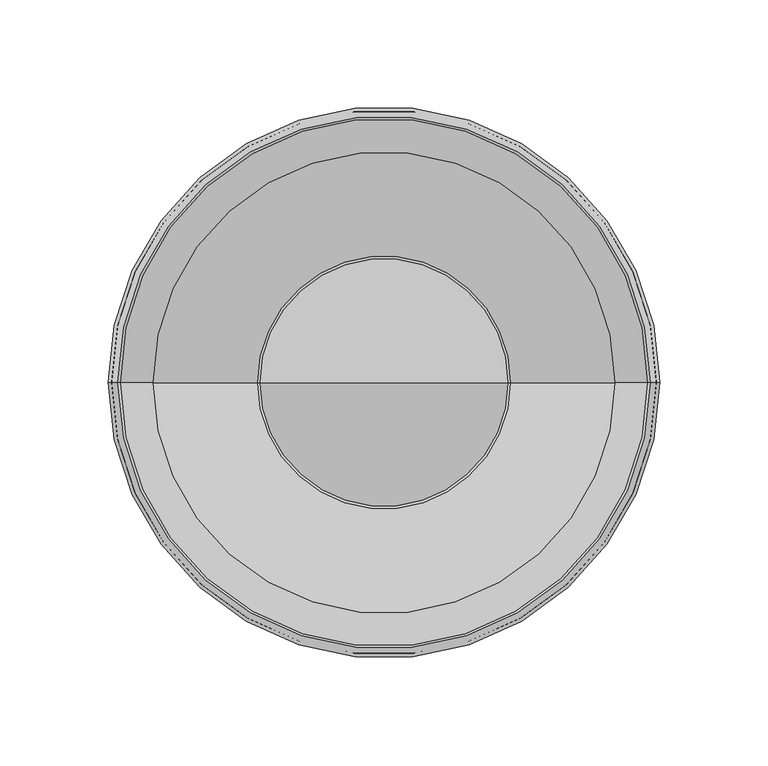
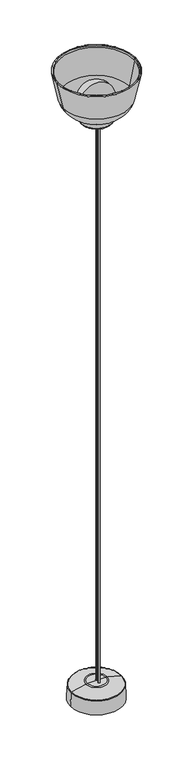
"""IFC4 building model written with IfcOpenShell, lengths in millimetres: light fixture geometry, RBW-Dram-Pendant : DR-S-PC."""

from ifc_helpers import new_model, si_unit, point, frame, frame_2d, origin, place, context, project, spatial, polyline, circle_curve, ellipse_curve, trimmed, segment, composite_curve, outline, extrude, source, transform, mapped, element, save
from ifc_brep_helpers import plane_surface, cylinder_surface, revolved_surface, advanced_brep


def light_fixture_67fafb94(model_context):
    return source(origin(), model_context, "Body", "SolidModel", [
        advanced_brep(
        [(-45.0, 3.5438286, 1993.4185711), (45.0, 3.5438286, 1993.4185711), (0.0, 3.5438286, 1993.4185711), (-45.0, 3.5438286, 2011.9185711), (45.0, 3.5438286, 2011.9185711), (0.0, 3.5438286, 2011.9185711)],
        [
            (0, 1, circle_curve(frame((0.0, 3.5438286, 1993.4185711), z_axis=(0.0, 0.0, -1.0), x_axis=(1.0, 0.0, 0.0)), 45.0)),
            (1, 2),
            (2, 0),
            (1, 0, circle_curve(frame((0.0, 3.5438286, 1993.4185711), z_axis=(0.0, 0.0, -1.0), x_axis=(1.0, 0.0, 0.0)), 45.0)),
            (3, 4, circle_curve(frame((0.0, 3.5438286, 2011.9185711), z_axis=(0.0, 0.0, -1.0), x_axis=(1.0, 0.0, 0.0)), 45.0)),
            (4, 1),
            (0, 3),
            (4, 3, circle_curve(frame((0.0, 3.5438286, 2011.9185711), z_axis=(0.0, 0.0, -1.0), x_axis=(1.0, 0.0, 0.0)), 45.0)),
            (5, 4),
            (3, 5),
        ],
        [
            plane_surface(frame((0.0, 3.5438286, 1993.4185711), z_axis=(0.0, 0.0, -1.0), x_axis=(1.0, 0.0, 0.0))),
            cylinder_surface(frame((0.0, 3.5438286, 2032.0), z_axis=(0.0, 0.0, 1.0), x_axis=(1.0, 0.0, 0.0)), 45.0),
            plane_surface(frame((0.0, 3.5438286, 2011.9185711), z_axis=(0.0, 0.0, 1.0), x_axis=(1.0, 0.0, 0.0))),
        ],
        [
            (0, [[1, 2, 3]]),
            (0, [[4, -3, -2]]),
            (1, [[5, 6, -1, 7]]),
            (1, [[8, -7, -4, -6]]),
            (2, [[9, -5, 10]]),
            (2, [[-10, -8, -9]]),
        ],
    ),
        advanced_brep(
        [(-45.0, 3.5438286, 2011.9185711), (45.0, 3.5438286, 2011.9185711), (0.0, 3.5438286, 2011.9185711), (0.0, 3.5438286, 2105.9297358)],
        [
            (0, 1, circle_curve(frame((0.0, 3.5438286, 2011.9185711), z_axis=(0.0, 0.0, -1.0), x_axis=(1.0, 0.0, 0.0)), 45.0)),
            (1, 2),
            (2, 0),
            (1, 0, circle_curve(frame((0.0, 3.5438286, 2011.9185711), z_axis=(0.0, 0.0, -1.0), x_axis=(1.0, 0.0, 0.0)), 45.0)),
            (3, 1, circle_curve(frame((-1.2656737, 3.5438286, 2047.5483203), z_axis=(0.0, 1.0, 0.0), x_axis=(1.0, 0.0, 0.0)), 58.3951333)),
            (0, 3, circle_curve(frame((1.2656737, 3.5438286, 2047.5483203), z_axis=(0.0, 1.0, 0.0), x_axis=(-1.0, 0.0, 0.0)), 58.3951333)),
        ],
        [
            plane_surface(frame((0.0, 3.5438286, 2011.9185711), z_axis=(0.0, 0.0, -1.0), x_axis=(1.0, 0.0, 0.0))),
            revolved_surface(trimmed(ellipse_curve(frame((-1.2656737, 3.5438286, 2047.5483203), z_axis=(0.0, -1.0, 0.0), x_axis=(1.0, 0.0, 0.0)), 58.3951333, 58.3951333), [point((45.0, 3.5438286, 2011.9185711))], [point((0.0, 3.5438286, 2105.9297358))], True, "CARTESIAN"), (0.0, 3.5438286, 2129.3880931), (0.0, 0.0, 1.0)),
        ],
        [
            (0, [[1, 2, 3]]),
            (0, [[4, -3, -2]]),
            (1, [[5, -1, 6]]),
            (1, [[-6, -4, -5]]),
        ],
    ),
        advanced_brep(
        [(-50.034835, 3.5438286, 1983.6147695), (50.034835, 3.5438286, 1983.6147695), (44.9730477, 3.5438286, 1983.1719204), (-44.9730477, 3.5438286, 1983.1719204), (-51.3816274, 3.5438286, 1999.0086775), (51.3816274, 3.5438286, 1999.0086775), (-121.6946787, 3.5438286, 2141.9411024), (121.6946787, 3.5438286, 2141.9411024), (122.7012825, 3.5438286, 2146.6163218), (-122.7012825, 3.5438286, 2146.6163218), (-123.2466148, 3.5438286, 2141.6069609), (123.2466148, 3.5438286, 2141.6069609), (-124.2675336, 3.5438286, 2146.3486668), (124.2675336, 3.5438286, 2146.3486668), (-49.3066478, 3.5438286, 1993.5060711), (49.3066478, 3.5438286, 1993.5060711), (49.8001684, 3.5438286, 1999.1470373), (-49.8001684, 3.5438286, 1999.1470373), (0.0, 3.5438286, 1993.5060711), (-42.6293897, 3.5438286, 1991.9185711), (42.6293897, 3.5438286, 1991.9185711), (0.0, 3.5438286, 1991.9185711), (-58.6071228, 3.5438286, 2007.818167), (58.6071228, 3.5438286, 2007.818167), (58.213025, 3.5438286, 2009.3567639), (-58.213025, 3.5438286, 2009.3567639), (-107.9218274, 3.5438286, 2055.9215779), (107.9218274, 3.5438286, 2055.9215779), (106.3816985, 3.5438286, 2056.3064925), (-106.3816985, 3.5438286, 2056.3064925), (-127.0281813, 3.5438286, 2145.9149151), (127.0281813, 3.5438286, 2145.9149151), (125.4669516, 3.5438286, 2146.1517711), (-125.4669516, 3.5438286, 2146.1517711)],
        [
            (0, 1, circle_curve(frame((0.0, 3.5438286, 1983.6147695), z_axis=(0.0, 0.0, -1.0), x_axis=(1.0, 0.0, 0.0)), 50.034835)),
            (1, 2, circle_curve(frame((47.4648982, 3.5438286, 1983.8396098), z_axis=(0.0, 1.0, 0.0), x_axis=(1.0, 0.0, 0.0)), 2.5797535)),
            (2, 3, circle_curve(frame((0.0, 3.5438286, 1983.1719204), z_axis=(0.0, 0.0, 1.0), x_axis=(1.0, 0.0, 0.0)), 44.9730477)),
            (3, 0, circle_curve(frame((-47.4648982, 3.5438286, 1983.8396098), z_axis=(0.0, 1.0, 0.0), x_axis=(-1.0, 0.0, 0.0)), 2.5797535)),
            (1, 0, circle_curve(frame((0.0, 3.5438286, 1983.6147695), z_axis=(0.0, 0.0, -1.0), x_axis=(1.0, 0.0, 0.0)), 50.034835)),
            (3, 2, circle_curve(frame((0.0, 3.5438286, 1983.1719204), z_axis=(0.0, 0.0, 1.0), x_axis=(1.0, 0.0, 0.0)), 44.9730477)),
            (4, 5, circle_curve(frame((0.0, 3.5438286, 1999.0086775), z_axis=(0.0, 0.0, -1.0), x_axis=(1.0, 0.0, 0.0)), 51.3816274)),
            (5, 1),
            (0, 4),
            (5, 4, circle_curve(frame((0.0, 3.5438286, 1999.0086775), z_axis=(0.0, 0.0, -1.0), x_axis=(1.0, 0.0, 0.0)), 51.3816274)),
            (6, 7, circle_curve(frame((0.0, 3.5438286, 2141.9411024), z_axis=(0.0, 0.0, -1.0), x_axis=(1.0, 0.0, 0.0)), 121.6946787)),
            (7, 8),
            (8, 9, circle_curve(frame((0.0, 3.5438286, 2146.6163218), z_axis=(0.0, 0.0, 1.0), x_axis=(1.0, 0.0, 0.0)), 122.7012825)),
            (9, 6),
            (7, 6, circle_curve(frame((0.0, 3.5438286, 2141.9411024), z_axis=(0.0, 0.0, -1.0), x_axis=(1.0, 0.0, 0.0)), 121.6946787)),
            (9, 8, circle_curve(frame((0.0, 3.5438286, 2146.6163218), z_axis=(0.0, 0.0, 1.0), x_axis=(1.0, 0.0, 0.0)), 122.7012825)),
            (10, 11, circle_curve(frame((0.0, 3.5438286, 2141.6069609), z_axis=(0.0, 0.0, -1.0), x_axis=(1.0, 0.0, 0.0)), 123.2466148)),
            (11, 7),
            (6, 10),
            (11, 10, circle_curve(frame((0.0, 3.5438286, 2141.6069609), z_axis=(0.0, 0.0, -1.0), x_axis=(1.0, 0.0, 0.0)), 123.2466148)),
            (12, 13, circle_curve(frame((0.0, 3.5438286, 2146.3486668), z_axis=(0.0, 0.0, -1.0), x_axis=(1.0, 0.0, 0.0)), 124.2675336)),
            (13, 11),
            (10, 12),
            (13, 12, circle_curve(frame((0.0, 3.5438286, 2146.3486668), z_axis=(0.0, 0.0, -1.0), x_axis=(1.0, 0.0, 0.0)), 124.2675336)),
            (14, 15, circle_curve(frame((0.0, 3.5438286, 1993.5060711), z_axis=(0.0, 0.0, -1.0), x_axis=(1.0, 0.0, 0.0)), 49.3066478)),
            (15, 16),
            (16, 17, circle_curve(frame((0.0, 3.5438286, 1999.1470373), z_axis=(0.0, 0.0, 1.0), x_axis=(1.0, 0.0, 0.0)), 49.8001684)),
            (17, 14),
            (15, 14, circle_curve(frame((0.0, 3.5438286, 1993.5060711), z_axis=(0.0, 0.0, -1.0), x_axis=(1.0, 0.0, 0.0)), 49.3066478)),
            (17, 16, circle_curve(frame((0.0, 3.5438286, 1999.1470373), z_axis=(0.0, 0.0, 1.0), x_axis=(1.0, 0.0, 0.0)), 49.8001684)),
            (18, 15),
            (14, 18),
            (19, 20, circle_curve(frame((0.0, 3.5438286, 1991.9185711), z_axis=(0.0, 0.0, -1.0), x_axis=(1.0, 0.0, 0.0)), 42.6293897)),
            (20, 21),
            (21, 19),
            (20, 19, circle_curve(frame((0.0, 3.5438286, 1991.9185711), z_axis=(0.0, 0.0, -1.0), x_axis=(1.0, 0.0, 0.0)), 42.6293897)),
            (2, 20),
            (19, 3),
            (22, 23, circle_curve(frame((0.0, 3.5438286, 2007.818167), z_axis=(0.0, 0.0, -1.0), x_axis=(1.0, 0.0, 0.0)), 58.6071228)),
            (23, 5, circle_curve(frame((61.4373684, 3.5438286, 1998.1289142), z_axis=(0.0, -1.0, 0.0), x_axis=(1.0, 0.0, 0.0)), 10.0941522)),
            (4, 22, circle_curve(frame((-61.4373684, 3.5438286, 1998.1289142), z_axis=(0.0, -1.0, 0.0), x_axis=(-1.0, 0.0, 0.0)), 10.0941522)),
            (23, 22, circle_curve(frame((0.0, 3.5438286, 2007.818167), z_axis=(0.0, 0.0, -1.0), x_axis=(1.0, 0.0, 0.0)), 58.6071228)),
            (16, 24, circle_curve(frame((61.4373684, 3.5438286, 1998.1289142), z_axis=(0.0, 1.0, 0.0), x_axis=(1.0, 0.0, 0.0)), 11.6816522)),
            (24, 25, circle_curve(frame((0.0, 3.5438286, 2009.3567639), z_axis=(0.0, 0.0, 1.0), x_axis=(1.0, 0.0, 0.0)), 58.213025)),
            (25, 17, circle_curve(frame((-61.4373684, 3.5438286, 1998.1289142), z_axis=(0.0, 1.0, 0.0), x_axis=(-1.0, 0.0, 0.0)), 11.6816522)),
            (25, 24, circle_curve(frame((0.0, 3.5438286, 2009.3567639), z_axis=(0.0, 0.0, 1.0), x_axis=(1.0, 0.0, 0.0)), 58.213025)),
            (26, 27, circle_curve(frame((0.0, 3.5438286, 2055.9215779), z_axis=(0.0, 0.0, -1.0), x_axis=(1.0, 0.0, 0.0)), 107.9218274)),
            (27, 23, circle_curve(frame((38.0382863, 3.5438286, 2078.2349034), z_axis=(0.0, 1.0, 0.0), x_axis=(1.0, 0.0, 0.0)), 73.3593471)),
            (22, 26, circle_curve(frame((-38.0382863, 3.5438286, 2078.2349034), z_axis=(0.0, 1.0, 0.0), x_axis=(-1.0, 0.0, 0.0)), 73.3593471)),
            (27, 26, circle_curve(frame((0.0, 3.5438286, 2055.9215779), z_axis=(0.0, 0.0, -1.0), x_axis=(1.0, 0.0, 0.0)), 107.9218274)),
            (24, 28, circle_curve(frame((38.5959273, 3.5438286, 2077.6676729), z_axis=(0.0, -1.0, 0.0), x_axis=(1.0, 0.0, 0.0)), 71.0718707)),
            (28, 29, circle_curve(frame((0.0, 3.5438286, 2056.3064925), z_axis=(0.0, 0.0, 1.0), x_axis=(1.0, 0.0, 0.0)), 106.3816985)),
            (29, 25, circle_curve(frame((-38.5959273, 3.5438286, 2077.6676729), z_axis=(0.0, -1.0, 0.0), x_axis=(-1.0, 0.0, 0.0)), 71.0718707)),
            (29, 28, circle_curve(frame((0.0, 3.5438286, 2056.3064925), z_axis=(0.0, 0.0, 1.0), x_axis=(1.0, 0.0, 0.0)), 106.3816985)),
            (30, 31, circle_curve(frame((0.0, 3.5438286, 2145.9149151), z_axis=(0.0, 0.0, -1.0), x_axis=(1.0, 0.0, 0.0)), 127.0281813)),
            (31, 27, circle_curve(frame((-331.6269514, 3.5438286, 2196.2664262), z_axis=(0.0, 1.0, 0.0), x_axis=(1.0, 0.0, 0.0)), 461.4106689)),
            (26, 30, circle_curve(frame((331.6269514, 3.5438286, 2196.2664262), z_axis=(0.0, 1.0, 0.0), x_axis=(-1.0, 0.0, 0.0)), 461.4106689)),
            (31, 30, circle_curve(frame((0.0, 3.5438286, 2145.9149151), z_axis=(0.0, 0.0, -1.0), x_axis=(1.0, 0.0, 0.0)), 127.0281813)),
            (28, 32, circle_curve(frame((-350.7534453, 3.5438286, 2200.3624807), z_axis=(0.0, -1.0, 0.0), x_axis=(1.0, 0.0, 0.0)), 479.2960123)),
            (32, 33, circle_curve(frame((0.0, 3.5438286, 2146.1517711), z_axis=(0.0, 0.0, 1.0), x_axis=(1.0, 0.0, 0.0)), 125.4669516)),
            (33, 29, circle_curve(frame((350.7534453, 3.5438286, 2200.3624807), z_axis=(0.0, -1.0, 0.0), x_axis=(-1.0, 0.0, 0.0)), 479.2960123)),
            (33, 32, circle_curve(frame((0.0, 3.5438286, 2146.1517711), z_axis=(0.0, 0.0, 1.0), x_axis=(1.0, 0.0, 0.0)), 125.4669516)),
            (8, 31, circle_curve(frame((124.8467029, 3.5438286, 2146.1543995), z_axis=(0.0, 1.0, 0.0), x_axis=(1.0, 0.0, 0.0)), 2.1945844)),
            (30, 9, circle_curve(frame((-124.8467029, 3.5438286, 2146.1543995), z_axis=(0.0, 1.0, 0.0), x_axis=(-1.0, 0.0, 0.0)), 2.1945844)),
            (32, 13, circle_curve(frame((124.8623792, 3.5438286, 2146.2205928), z_axis=(0.0, -1.0, 0.0), x_axis=(1.0, 0.0, 0.0)), 0.608477)),
            (12, 33, circle_curve(frame((-124.8623792, 3.5438286, 2146.2205928), z_axis=(0.0, -1.0, 0.0), x_axis=(-1.0, 0.0, 0.0)), 0.608477)),
        ],
        [
            revolved_surface(trimmed(ellipse_curve(frame((47.4648982, 3.5438286, 1983.8396098), z_axis=(0.0, -1.0, 0.0), x_axis=(1.0, 0.0, 0.0)), 2.5797535, 2.5797535), [point((44.9730477, 3.5438286, 1983.1719204))], [point((50.034835, 3.5438286, 1983.6147695))], True, "CARTESIAN"), (0.0, 3.5438286, 2190.75), (0.0, 0.0, 1.0)),
            revolved_surface(polyline([(50.034835, 3.5438286, 1983.6147695), (51.3816274, 3.5438286, 1999.0086775)]), (0.0, 3.5438286, 2190.75), (0.0, 0.0, 1.0)),
            revolved_surface(polyline([(122.7012825, 3.5438286, 2146.6163218), (121.6946787, 3.5438286, 2141.9411024)]), (0.0, 3.5438286, 2190.75), (0.0, 0.0, 1.0)),
            revolved_surface(polyline([(121.6946787, 3.5438286, 2141.9411024), (123.2466148, 3.5438286, 2141.6069609)]), (0.0, 3.5438286, 2190.75), (0.0, 0.0, 1.0)),
            revolved_surface(polyline([(123.2466148, 3.5438286, 2141.6069609), (124.2675336, 3.5438286, 2146.3486668)]), (0.0, 3.5438286, 2190.75), (0.0, 0.0, 1.0)),
            revolved_surface(polyline([(49.8001684, 3.5438286, 1999.1470373), (49.3066478, 3.5438286, 1993.5060711)]), (0.0, 3.5438286, 2190.75), (0.0, 0.0, 1.0)),
            plane_surface(frame((0.0, 3.5438286, 1993.5060711), z_axis=(0.0, 0.0, 1.0), x_axis=(1.0, 0.0, 0.0))),
            plane_surface(frame((0.0, 3.5438286, 1991.9185711), z_axis=(0.0, 0.0, -1.0), x_axis=(1.0, 0.0, 0.0))),
            revolved_surface(polyline([(42.6293897, 3.5438286, 1991.9185711), (44.9730477, 3.5438286, 1983.1719204)]), (0.0, 3.5438286, 2190.75), (0.0, 0.0, 1.0)),
            revolved_surface(trimmed(ellipse_curve(frame((61.4373684, 3.5438286, 1998.1289142), z_axis=(0.0, 1.0, 0.0), x_axis=(1.0, 0.0, 0.0)), 10.0941522, 10.0941522), [point((51.3816274, 3.5438286, 1999.0086775))], [point((58.6071228, 3.5438286, 2007.818167))], True, "CARTESIAN"), (0.0, 3.5438286, 2190.75), (0.0, 0.0, 1.0)),
            revolved_surface(trimmed(ellipse_curve(frame((61.4373684, 3.5438286, 1998.1289142), z_axis=(0.0, -1.0, 0.0), x_axis=(1.0, 0.0, 0.0)), 11.6816522, 11.6816522), [point((58.213025, 3.5438286, 2009.3567639))], [point((49.8001684, 3.5438286, 1999.1470373))], True, "CARTESIAN"), (0.0, 3.5438286, 2190.75), (0.0, 0.0, 1.0)),
            revolved_surface(trimmed(ellipse_curve(frame((38.0382863, 3.5438286, 2078.2349034), z_axis=(0.0, -1.0, 0.0), x_axis=(1.0, 0.0, 0.0)), 73.3593471, 73.3593471), [point((58.6071228, 3.5438286, 2007.818167))], [point((107.9218274, 3.5438286, 2055.9215779))], True, "CARTESIAN"), (0.0, 3.5438286, 2190.75), (0.0, 0.0, 1.0)),
            revolved_surface(trimmed(ellipse_curve(frame((38.5959273, 3.5438286, 2077.6676729), z_axis=(0.0, 1.0, 0.0), x_axis=(1.0, 0.0, 0.0)), 71.0718707, 71.0718707), [point((106.3816985, 3.5438286, 2056.3064925))], [point((58.213025, 3.5438286, 2009.3567639))], True, "CARTESIAN"), (0.0, 3.5438286, 2190.75), (0.0, 0.0, 1.0)),
            revolved_surface(trimmed(ellipse_curve(frame((-331.6269514, 3.5438286, 2196.2664262), z_axis=(0.0, -1.0, 0.0), x_axis=(1.0, 0.0, 0.0)), 461.4106689, 461.4106689), [point((107.9218274, 3.5438286, 2055.9215779))], [point((127.0281813, 3.5438286, 2145.9149151))], True, "CARTESIAN"), (0.0, 3.5438286, 2190.75), (0.0, 0.0, 1.0)),
            revolved_surface(trimmed(ellipse_curve(frame((-350.7534453, 3.5438286, 2200.3624807), z_axis=(0.0, 1.0, 0.0), x_axis=(1.0, 0.0, 0.0)), 479.2960123, 479.2960123), [point((125.4669516, 3.5438286, 2146.1517711))], [point((106.3816985, 3.5438286, 2056.3064925))], True, "CARTESIAN"), (0.0, 3.5438286, 2190.75), (0.0, 0.0, 1.0)),
            revolved_surface(trimmed(ellipse_curve(frame((124.8467029, 3.5438286, 2146.1543995), z_axis=(0.0, -1.0, 0.0), x_axis=(1.0, 0.0, 0.0)), 2.1945844, 2.1945844), [point((127.0281813, 3.5438286, 2145.9149151))], [point((122.7012825, 3.5438286, 2146.6163218))], True, "CARTESIAN"), (0.0, 3.5438286, 2190.75), (0.0, 0.0, 1.0)),
            revolved_surface(trimmed(ellipse_curve(frame((124.8623792, 3.5438286, 2146.2205928), z_axis=(0.0, 1.0, 0.0), x_axis=(1.0, 0.0, 0.0)), 0.608477, 0.608477), [point((124.2675336, 3.5438286, 2146.3486668))], [point((125.4669516, 3.5438286, 2146.1517711))], True, "CARTESIAN"), (0.0, 3.5438286, 2190.75), (0.0, 0.0, 1.0)),
        ],
        [
            (0, [[1, 2, 3, 4]]),
            (0, [[5, -4, 6, -2]]),
            (1, [[7, 8, -1, 9]]),
            (1, [[10, -9, -5, -8]]),
            (2, [[11, 12, 13, 14]]),
            (2, [[15, -14, 16, -12]]),
            (3, [[17, 18, -11, 19]]),
            (3, [[20, -19, -15, -18]]),
            (4, [[21, 22, -17, 23]]),
            (4, [[24, -23, -20, -22]]),
            (5, [[25, 26, 27, 28]]),
            (5, [[29, -28, 30, -26]]),
            (6, [[31, -25, 32]]),
            (6, [[-32, -29, -31]]),
            (7, [[33, 34, 35]]),
            (7, [[36, -35, -34]]),
            (8, [[-3, 37, -33, 38]]),
            (8, [[-6, -38, -36, -37]]),
            (9, [[39, 40, -7, 41]]),
            (9, [[42, -41, -10, -40]]),
            (10, [[-27, 43, 44, 45]]),
            (10, [[-30, -45, 46, -43]]),
            (11, [[47, 48, -39, 49]]),
            (11, [[50, -49, -42, -48]]),
            (12, [[-44, 51, 52, 53]]),
            (12, [[-46, -53, 54, -51]]),
            (13, [[55, 56, -47, 57]]),
            (13, [[58, -57, -50, -56]]),
            (14, [[-52, 59, 60, 61]]),
            (14, [[-54, -61, 62, -59]]),
            (15, [[-13, 63, -55, 64]]),
            (15, [[-16, -64, -58, -63]]),
            (16, [[-60, 65, -21, 66]]),
            (16, [[-62, -66, -24, -65]]),
        ],
    ),
        advanced_brep(
        [(-1.9558002, 3.5438286, 60.1756874), (1.9558002, 3.5438286, 60.1756874), (0.0, 3.5438286, 60.1756874), (-1.9558002, 3.5438286, 63.6557075), (1.9558002, 3.5438286, 63.6557075), (0.0, 3.5438286, 63.6557075)],
        [
            (0, 1, circle_curve(frame((0.0, 3.5438286, 60.1756874), z_axis=(0.0, 0.0, -1.0), x_axis=(1.0, 0.0, 0.0)), 1.9558002)),
            (1, 2),
            (2, 0),
            (1, 0, circle_curve(frame((0.0, 3.5438286, 60.1756874), z_axis=(0.0, 0.0, -1.0), x_axis=(1.0, 0.0, 0.0)), 1.9558002)),
            (3, 4, circle_curve(frame((0.0, 3.5438286, 63.6557075), z_axis=(0.0, 0.0, -1.0), x_axis=(1.0, 0.0, 0.0)), 1.9558002)),
            (4, 1),
            (0, 3),
            (4, 3, circle_curve(frame((0.0, 3.5438286, 63.6557075), z_axis=(0.0, 0.0, -1.0), x_axis=(1.0, 0.0, 0.0)), 1.9558002)),
            (5, 4),
            (3, 5),
        ],
        [
            plane_surface(frame((0.0, 3.5438286, 60.1756874), z_axis=(0.0, 0.0, -1.0), x_axis=(1.0, 0.0, 0.0))),
            cylinder_surface(frame((0.0, 3.5438286, 54.1910677), z_axis=(0.0, 0.0, 1.0), x_axis=(1.0, 0.0, 0.0)), 1.9558002),
            plane_surface(frame((0.0, 3.5438286, 63.6557075), z_axis=(0.0, 0.0, 1.0), x_axis=(1.0, 0.0, 0.0))),
        ],
        [
            (0, [[1, 2, 3]]),
            (0, [[4, -3, -2]]),
            (1, [[5, 6, -1, 7]]),
            (1, [[8, -7, -4, -6]]),
            (2, [[9, -5, 10]]),
            (2, [[-10, -8, -9]]),
        ],
    ),
        advanced_brep(
        [(-35.5973952, 3.5438286, 59.3750688), (35.5973952, 3.5438286, 59.3750688), (80.1396011, 3.5438286, 47.9188132), (-80.1396011, 3.5438286, 47.9188132), (0.0, 3.5438286, 60.1756874), (29.2704342, 3.5438286, 60.1756874), (-29.2704342, 3.5438286, 60.1756874), (-84.0611662, 3.5438286, 0.0), (84.0611662, 3.5438286, 0.0), (0.0, 3.5438286, 0.0), (-81.8320169, 3.5438286, 45.842229), (81.8320169, 3.5438286, 45.842229)],
        [
            (0, 1, circle_curve(frame((0.0, 3.5438286, 59.3750688), z_axis=(0.0, 0.0, -1.0), x_axis=(1.0, 0.0, 0.0)), 35.5973952)),
            (1, 2),
            (2, 3, circle_curve(frame((0.0, 3.5438286, 47.9188132), z_axis=(0.0, 0.0, 1.0), x_axis=(1.0, 0.0, 0.0)), 80.1396011)),
            (3, 0),
            (1, 0, circle_curve(frame((0.0, 3.5438286, 59.3750688), z_axis=(0.0, 0.0, -1.0), x_axis=(1.0, 0.0, 0.0)), 35.5973952)),
            (3, 2, circle_curve(frame((0.0, 3.5438286, 47.9188132), z_axis=(0.0, 0.0, 1.0), x_axis=(1.0, 0.0, 0.0)), 80.1396011)),
            (4, 5),
            (5, 6, circle_curve(frame((0.0, 3.5438286, 60.1756874), z_axis=(0.0, 0.0, 1.0), x_axis=(1.0, 0.0, 0.0)), 29.2704342)),
            (6, 4),
            (6, 5, circle_curve(frame((0.0, 3.5438286, 60.1756874), z_axis=(0.0, 0.0, 1.0), x_axis=(1.0, 0.0, 0.0)), 29.2704342)),
            (7, 8, circle_curve(frame((0.0, 3.5438286, 0.0), z_axis=(0.0, 0.0, -1.0), x_axis=(1.0, 0.0, 0.0)), 84.0611662)),
            (8, 9),
            (9, 7),
            (8, 7, circle_curve(frame((0.0, 3.5438286, 0.0), z_axis=(0.0, 0.0, -1.0), x_axis=(1.0, 0.0, 0.0)), 84.0611662)),
            (10, 11, circle_curve(frame((0.0, 3.5438286, 45.842229), z_axis=(0.0, 0.0, -1.0), x_axis=(1.0, 0.0, 0.0)), 81.8320169)),
            (11, 8),
            (7, 10),
            (11, 10, circle_curve(frame((0.0, 3.5438286, 45.842229), z_axis=(0.0, 0.0, -1.0), x_axis=(1.0, 0.0, 0.0)), 81.8320169)),
            (2, 11, circle_curve(frame((79.5773045, 3.5438286, 45.7325901), z_axis=(0.0, 1.0, 0.0), x_axis=(1.0, 0.0, 0.0)), 2.2573765)),
            (10, 3, circle_curve(frame((-79.5773045, 3.5438286, 45.7325901), z_axis=(0.0, 1.0, 0.0), x_axis=(-1.0, 0.0, 0.0)), 2.2573765)),
            (5, 1, circle_curve(frame((29.2704342, 3.5438286, 34.7756874), z_axis=(0.0, 1.0, 0.0), x_axis=(1.0, 0.0, 0.0)), 25.4)),
            (0, 6, circle_curve(frame((-29.2704342, 3.5438286, 34.7756874), z_axis=(0.0, 1.0, 0.0), x_axis=(-1.0, 0.0, 0.0)), 25.4)),
        ],
        [
            revolved_surface(polyline([(80.1396011, 3.5438286, 47.9188132), (35.5973952, 3.5438286, 59.3750688)]), (0.0, 3.5438286, -69.85), (0.0, 0.0, 1.0)),
            plane_surface(frame((0.0, 3.5438286, 60.1756874), z_axis=(0.0, 0.0, 1.0), x_axis=(1.0, 0.0, 0.0))),
            plane_surface(frame((0.0, 3.5438286, 0.0), z_axis=(0.0, 0.0, -1.0), x_axis=(1.0, 0.0, 0.0))),
            revolved_surface(polyline([(84.0611662, 3.5438286, 0.0), (81.8320169, 3.5438286, 45.842229)]), (0.0, 3.5438286, -69.85), (0.0, 0.0, 1.0)),
            revolved_surface(trimmed(ellipse_curve(frame((79.5773045, 3.5438286, 45.7325901), z_axis=(0.0, -1.0, 0.0), x_axis=(1.0, 0.0, 0.0)), 2.2573765, 2.2573765), [point((81.8320169, 3.5438286, 45.842229))], [point((80.1396011, 3.5438286, 47.9188132))], True, "CARTESIAN"), (0.0, 3.5438286, -69.85), (0.0, 0.0, 1.0)),
            revolved_surface(trimmed(ellipse_curve(frame((29.2704342, 3.5438286, 34.7756874), z_axis=(0.0, -1.0, 0.0), x_axis=(1.0, 0.0, 0.0)), 25.4, 25.4), [point((35.5973952, 3.5438286, 59.3750688))], [point((29.2704342, 3.5438286, 60.1756874))], True, "CARTESIAN"), (0.0, 3.5438286, -69.85), (0.0, 0.0, 1.0)),
        ],
        [
            (0, [[1, 2, 3, 4]]),
            (0, [[5, -4, 6, -2]]),
            (1, [[7, 8, 9]]),
            (1, [[-9, 10, -7]]),
            (2, [[11, 12, 13]]),
            (2, [[14, -13, -12]]),
            (3, [[15, 16, -11, 17]]),
            (3, [[18, -17, -14, -16]]),
            (4, [[-3, 19, -15, 20]]),
            (4, [[-6, -20, -18, -19]]),
            (5, [[-8, 21, -1, 22]]),
            (5, [[-10, -22, -5, -21]]),
        ],
    ),
        extrude(outline(composite_curve([segment(trimmed(circle_curve(frame_2d((0.0, -10.4593129)), 3.1077965), [point((-3.1077965, -10.4593129))], [point((3.1077965, -10.4593129))], False, "CARTESIAN"), True, "CONTINUOUS"), segment(trimmed(circle_curve(frame_2d((0.0, -10.4593129)), 3.1077965), [point((3.1077965, -10.4593129))], [point((-3.1077965, -10.4593129))], False, "CARTESIAN"), True, "CONTINUOUS")], self_intersect=False)), frame((0.0, 0.0, 60.1756874), z_axis=(0.0, 0.0, 1.0), x_axis=(1.0, 0.0, 0.0)), (0.0, 0.0, 1.0), 1931.7428837),
        extrude(outline(composite_curve([segment(trimmed(circle_curve(frame_2d((0.0, 3.5438286)), 0.782962), [point((-0.782962, 3.5438286))], [point((0.782962, 3.5438286))], False, "CARTESIAN"), True, "CONTINUOUS"), segment(trimmed(circle_curve(frame_2d((0.0, 3.5438286)), 0.782962), [point((0.782962, 3.5438286))], [point((-0.782962, 3.5438286))], False, "CARTESIAN"), True, "CONTINUOUS")], self_intersect=False)), frame((0.0, 0.0, 63.6557075), z_axis=(0.0, 0.0, 1.0), x_axis=(1.0, 0.0, 0.0)), (0.0, 0.0, 1.0), 1928.2628635),
    ])


if __name__ == "__main__":
    model = new_model("IFC4")
    model_context = context("Model", 3, world=origin())
    ifc_project = project(units=[si_unit("LENGTHUNIT", "METRE", prefix="MILLI")], contexts=[model_context])
    site = spatial("IfcSite", under=ifc_project)
    building = spatial("IfcBuilding", under=site)
    placement = place(None, origin())
    light_fixture_shape = light_fixture_67fafb94(model_context)
    element("IfcLightFixture", 1, ObjectType="RBW-Dram-Pendant : DR-S-PC", at=placement, inside=building, context=model_context, shape_type="MappedRepresentation", body=[
        mapped(light_fixture_shape, transform((0.0, 0.0, 0.0), x_axis=(1.0, 0.0, 0.0), y_axis=(0.0, 1.0, 0.0), z_axis=(0.0, 0.0, 1.0))),
    ])
    save(model, "model.ifc")
